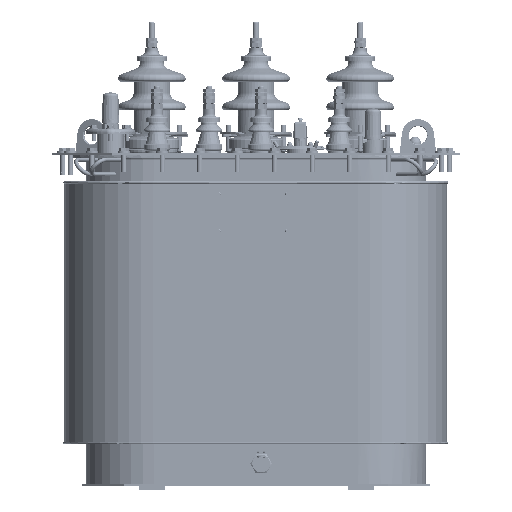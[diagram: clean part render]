
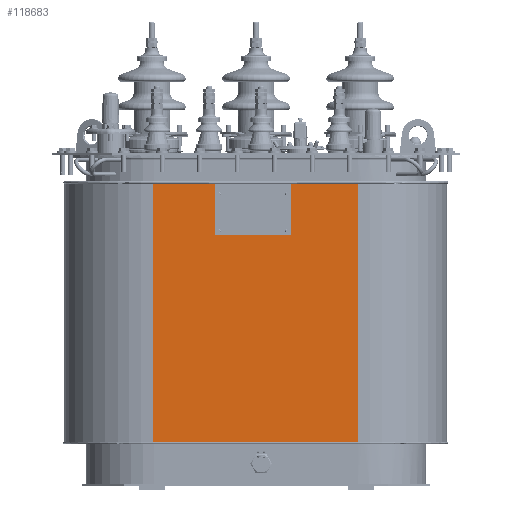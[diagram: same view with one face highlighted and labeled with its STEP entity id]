
A CAD part, top view. The second image highlights one B-rep face of the part: STEP entity #118683.
In plain terms, the highlighted planar face has unit normal (0, 0, -1).
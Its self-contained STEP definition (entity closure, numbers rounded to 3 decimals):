
#9792=LINE('',#251466,#15618);
#9793=LINE('',#251470,#15619);
#9794=LINE('',#251472,#15620);
#9795=LINE('',#251473,#15621);
#15618=VECTOR('',#158442,50.);
#15619=VECTOR('',#158447,39.3);
#15620=VECTOR('',#158448,50.);
#15621=VECTOR('',#158449,39.3);
#21623=PLANE('',#130040);
#30699=FACE_OUTER_BOUND('',#39780,.T.);
#39780=EDGE_LOOP('',(#102350,#102351,#102352,#102353));
#55304=VERTEX_POINT('',#251463);
#55305=VERTEX_POINT('',#251465);
#55306=VERTEX_POINT('',#251469);
#55307=VERTEX_POINT('',#251471);
#70954=EDGE_CURVE('',#55304,#55305,#9792,.T.);
#70956=EDGE_CURVE('',#55306,#55304,#9793,.T.);
#70957=EDGE_CURVE('',#55306,#55307,#9794,.T.);
#70958=EDGE_CURVE('',#55307,#55305,#9795,.T.);
#102350=ORIENTED_EDGE('',*,*,#70956,.F.);
#102351=ORIENTED_EDGE('',*,*,#70957,.T.);
#102352=ORIENTED_EDGE('',*,*,#70958,.T.);
#102353=ORIENTED_EDGE('',*,*,#70954,.F.);
#118683=ADVANCED_FACE('',(#30699),#21623,.F.);
#130040=AXIS2_PLACEMENT_3D('',#251468,#158445,#158446);
#158442=DIRECTION('',(0.,1.,0.));
#158445=DIRECTION('center_axis',(0.,0.,
1.));
#158446=DIRECTION('ref_axis',(1.,0.,0.));
#158447=DIRECTION('',(1.,0.,0.));
#158448=DIRECTION('',(0.,1.,0.));
#158449=DIRECTION('',(1.,0.,0.));
#251463=CARTESIAN_POINT('',(20.18,3.1,17.2));
#251465=CARTESIAN_POINT('',(20.18,53.1,17.2));
#251466=CARTESIAN_POINT('',(20.18,3.1,17.2));
#251468=CARTESIAN_POINT('Origin',(-19.12,3.1,17.2));
#251469=CARTESIAN_POINT('',(-19.12,3.1,17.2));
#251470=CARTESIAN_POINT('',(-19.12,3.1,17.2));
#251471=CARTESIAN_POINT('',(-19.12,53.1,17.2));
#251472=CARTESIAN_POINT('',(-19.12,3.1,17.2));
#251473=CARTESIAN_POINT('',(-19.12,53.1,17.2));
